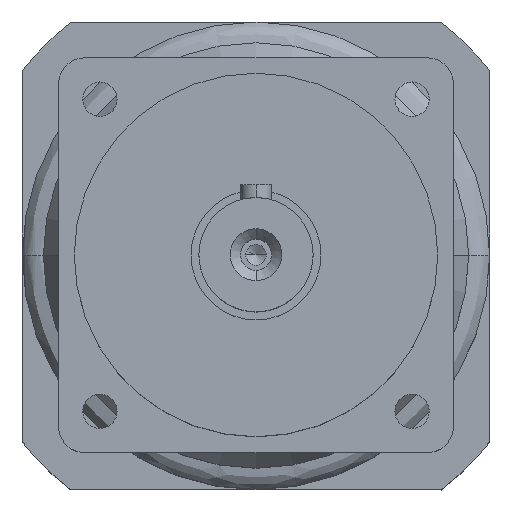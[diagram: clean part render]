
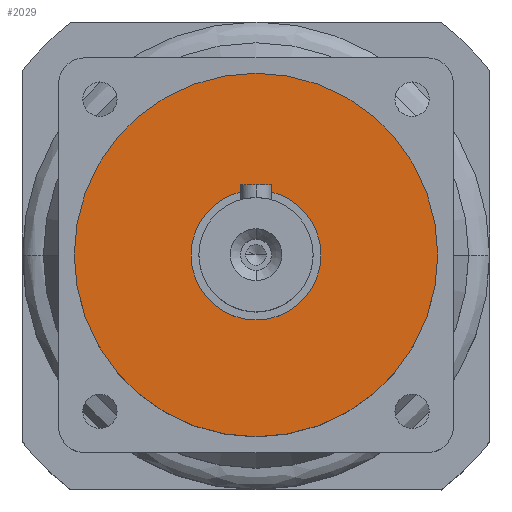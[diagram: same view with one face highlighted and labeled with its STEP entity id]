
A CAD part, top view. The second image highlights one B-rep face of the part: STEP entity #2029.
In plain terms, the highlighted planar face has unit normal (0, 0, 1).
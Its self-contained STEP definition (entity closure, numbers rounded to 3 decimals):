
#44 = AXIS2_PLACEMENT_3D ( 'NONE', #2034, #4677, #2408 ) ;
#52 = CIRCLE ( 'NONE', #44, 12.5 ) ;
#252 = DIRECTION ( 'NONE',  ( -1., 0., 0. ) ) ;
#323 = DIRECTION ( 'NONE',  ( 0., 0., -1. ) ) ;
#412 = FACE_BOUND ( 'NONE', #2405, .T. ) ;
#426 = CARTESIAN_POINT ( 'NONE',  ( -35.42, -35.42, 17.5 ) ) ;
#812 = DIRECTION ( 'NONE',  ( 1., 0., 0. ) ) ;
#958 = CARTESIAN_POINT ( 'NONE',  ( 0., -12.5, 17.5 ) ) ;
#1167 = ORIENTED_EDGE ( 'NONE', *, *, #4602, .T. ) ;
#1597 = CIRCLE ( 'NONE', #4107, 35. ) ;
#1599 = AXIS2_PLACEMENT_3D ( 'NONE', #2592, #323, #2976 ) ;
#1834 = CARTESIAN_POINT ( 'NONE',  ( 0., 0., 17.5 ) ) ;
#2029 = ADVANCED_FACE ( 'NONE', ( #412, #4315 ), #4202, .T. ) ;
#2034 = CARTESIAN_POINT ( 'NONE',  ( 0., 0., 17.5 ) ) ;
#2088 = CIRCLE ( 'NONE', #1599, 12.5 ) ;
#2104 = EDGE_CURVE ( 'NONE', #3205, #2979, #52, .T. ) ;
#2114 = EDGE_LOOP ( 'NONE', ( #2806, #1167 ) ) ;
#2163 = CARTESIAN_POINT ( 'NONE',  ( 0., 12.5, 17.5 ) ) ;
#2214 = DIRECTION ( 'NONE',  ( -1., 0., 0. ) ) ;
#2346 = EDGE_CURVE ( 'NONE', #2506, #4280, #1597, .T. ) ;
#2405 = EDGE_LOOP ( 'NONE', ( #2874, #3890 ) ) ;
#2408 = DIRECTION ( 'NONE',  ( 0., 1., 0. ) ) ;
#2506 = VERTEX_POINT ( 'NONE', #3731 ) ;
#2521 = DIRECTION ( 'NONE',  ( 0., 0., 1. ) ) ;
#2592 = CARTESIAN_POINT ( 'NONE',  ( 0., 0., 17.5 ) ) ;
#2806 = ORIENTED_EDGE ( 'NONE', *, *, #2346, .T. ) ;
#2874 = ORIENTED_EDGE ( 'NONE', *, *, #2104, .T. ) ;
#2976 = DIRECTION ( 'NONE',  ( 0., 1., 0. ) ) ;
#2979 = VERTEX_POINT ( 'NONE', #958 ) ;
#3069 = DIRECTION ( 'NONE',  ( 0., 0., 1. ) ) ;
#3205 = VERTEX_POINT ( 'NONE', #2163 ) ;
#3438 = AXIS2_PLACEMENT_3D ( 'NONE', #1834, #4475, #2214 ) ;
#3731 = CARTESIAN_POINT ( 'NONE',  ( -35., 0., 17.5 ) ) ;
#3884 = CARTESIAN_POINT ( 'NONE',  ( 35., 0., 17.5 ) ) ;
#3890 = ORIENTED_EDGE ( 'NONE', *, *, #3950, .T. ) ;
#3950 = EDGE_CURVE ( 'NONE', #2979, #3205, #2088, .T. ) ;
#4107 = AXIS2_PLACEMENT_3D ( 'NONE', #4793, #2521, #252 ) ;
#4202 = PLANE ( 'NONE',  #4209 ) ;
#4209 = AXIS2_PLACEMENT_3D ( 'NONE', #426, #3069, #812 ) ;
#4280 = VERTEX_POINT ( 'NONE', #3884 ) ;
#4315 = FACE_OUTER_BOUND ( 'NONE', #2114, .T. ) ;
#4442 = CIRCLE ( 'NONE', #3438, 35. ) ;
#4475 = DIRECTION ( 'NONE',  ( 0., 0., 1. ) ) ;
#4602 = EDGE_CURVE ( 'NONE', #4280, #2506, #4442, .T. ) ;
#4677 = DIRECTION ( 'NONE',  ( 0., 0., -1. ) ) ;
#4793 = CARTESIAN_POINT ( 'NONE',  ( 0., 0., 17.5 ) ) ;
